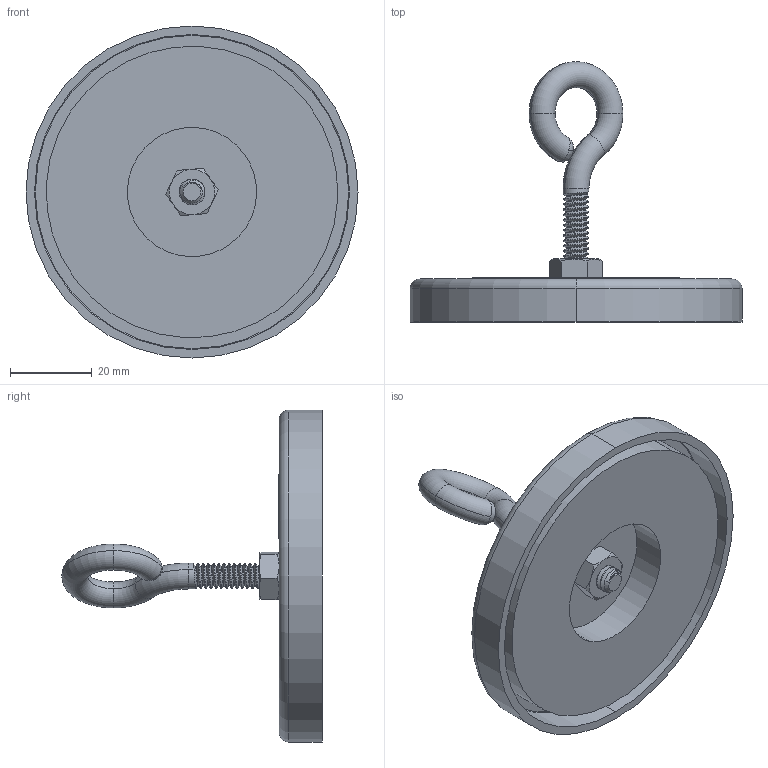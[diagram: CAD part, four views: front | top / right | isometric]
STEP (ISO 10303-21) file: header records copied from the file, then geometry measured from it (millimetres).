
FILE_DESCRIPTION (( 'STEP AP203' ), '1' );
FILE_NAME ('DT3500.STEP', '2018-08-20T15:56:37', ( '' ), ( '' ), 'SwSTEP 2.0', 'SolidWorks 2015', '' );
FILE_SCHEMA (( 'CONFIG_CONTROL_DESIGN' ));
Length unit declared in the file: inch
Products named in the file (1): DT3500
Bounding box: 81.28 x 63.75 x 81.28 mm (x, y, z)
Volume: 45031 mm3; surface area: 28877.4 mm2
Topology: 6 solids, 6 shells, 704 faces, 1825 edges, 1192 vertices
Faces by surface type: plane 348, bspline 165, cylinder 113, cone 66, torus 12
Entity records: 33546 total; most frequent: CARTESIAN_POINT 17967, ORIENTED_EDGE 3650, DIRECTION 2455, EDGE_CURVE 1825, VERTEX_POINT 1192, LINE 1123, VECTOR 1123, EDGE_LOOP 771
